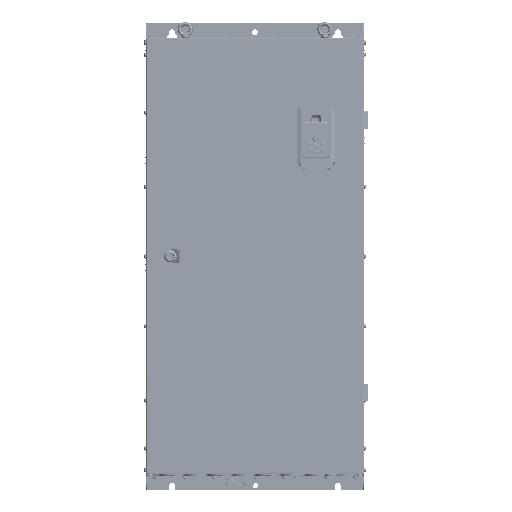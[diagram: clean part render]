
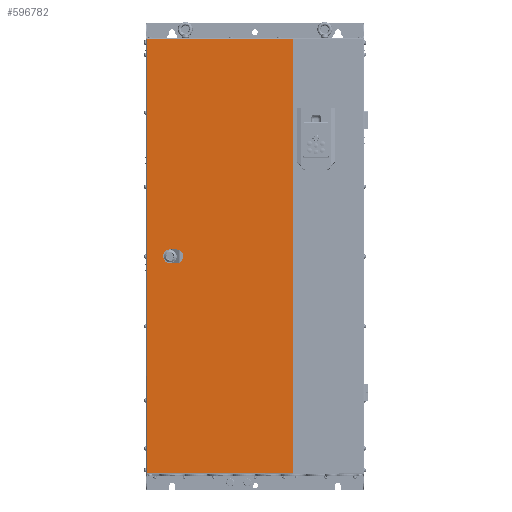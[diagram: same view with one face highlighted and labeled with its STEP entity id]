
A CAD part, top view. The second image highlights one B-rep face of the part: STEP entity #596782.
In plain terms, the highlighted planar face has unit normal (0, 0, 1).
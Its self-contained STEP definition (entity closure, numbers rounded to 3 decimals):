
#594793=DIRECTION('',(0.,-1.,0.));
#594794=VECTOR('',#594793,995.05);
#594795=CARTESIAN_POINT('',(-247.25,997.75,10.5));
#594796=LINE('',#594795,#594794);
#595163=DIRECTION('',(1.,0.,0.));
#595164=VECTOR('',#595163,334.25);
#595165=CARTESIAN_POINT('',(-247.25,2.7,10.5));
#595166=LINE('',#595165,#595164);
#595224=DIRECTION('',(1.,0.,0.));
#595225=VECTOR('',#595224,12.052);
#595226=CARTESIAN_POINT('',(-200.526,509.5,10.5));
#595227=LINE('',#595226,#595225);
#595231=CARTESIAN_POINT('',(-194.5,500.,10.5));
#595232=DIRECTION('',(0.,0.,1.));
#595233=DIRECTION('',(-0.536,0.844,0.));
#595234=AXIS2_PLACEMENT_3D('',#595231,#595232,#595233);
#595239=DIRECTION('',(0.,1.,0.));
#595240=VECTOR('',#595239,12.052);
#595241=CARTESIAN_POINT('',(-204.,493.974,10.5));
#595242=LINE('',#595241,#595240);
#595246=CARTESIAN_POINT('',(-194.5,500.,10.5));
#595247=DIRECTION('',(0.,0.,1.));
#595248=DIRECTION('',(-0.844,-0.536,0.));
#595249=AXIS2_PLACEMENT_3D('',#595246,#595247,#595248);
#595254=DIRECTION('',(-1.,0.,0.));
#595255=VECTOR('',#595254,12.052);
#595256=CARTESIAN_POINT('',(-188.474,490.5,10.5));
#595257=LINE('',#595256,#595255);
#595261=CARTESIAN_POINT('',(-194.5,500.,10.5));
#595262=DIRECTION('',(0.,0.,1.));
#595263=DIRECTION('',(0.536,-0.844,0.));
#595264=AXIS2_PLACEMENT_3D('',#595261,#595262,#595263);
#595269=DIRECTION('',(0.,-1.,0.));
#595270=VECTOR('',#595269,12.052);
#595271=CARTESIAN_POINT('',(-185.,506.026,10.5));
#595272=LINE('',#595271,#595270);
#595276=CARTESIAN_POINT('',(-194.5,500.,10.5));
#595277=DIRECTION('',(0.,0.,1.));
#595278=DIRECTION('',(0.844,0.536,0.));
#595279=AXIS2_PLACEMENT_3D('',#595276,#595277,#595278);
#595284=DIRECTION('',(0.,-1.,0.));
#595285=VECTOR('',#595284,995.05);
#595286=CARTESIAN_POINT('',(87.,997.75,10.5));
#595287=LINE('',#595286,#595285);
#595369=DIRECTION('',(1.,0.,0.));
#595370=VECTOR('',#595369,334.25);
#595371=CARTESIAN_POINT('',(-247.25,997.75,10.5));
#595372=LINE('',#595371,#595370);
#596117=CARTESIAN_POINT('',(-247.25,997.75,10.5));
#596118=CARTESIAN_POINT('',(-247.25,2.7,10.5));
#596119=VERTEX_POINT('',#596117);
#596120=VERTEX_POINT('',#596118);
#596230=CARTESIAN_POINT('',(-200.526,509.5,10.5));
#596231=CARTESIAN_POINT('',(-188.474,509.5,10.5));
#596232=VERTEX_POINT('',#596230);
#596233=VERTEX_POINT('',#596231);
#596234=CARTESIAN_POINT('',(-185.,506.026,10.5));
#596235=VERTEX_POINT('',#596234);
#596236=CARTESIAN_POINT('',(-185.,493.974,10.5));
#596237=VERTEX_POINT('',#596236);
#596238=CARTESIAN_POINT('',(-188.474,490.5,10.5));
#596239=VERTEX_POINT('',#596238);
#596240=CARTESIAN_POINT('',(-200.526,490.5,10.5));
#596241=VERTEX_POINT('',#596240);
#596242=CARTESIAN_POINT('',(-204.,493.974,10.5));
#596243=VERTEX_POINT('',#596242);
#596244=CARTESIAN_POINT('',(-204.,506.026,10.5));
#596245=VERTEX_POINT('',#596244);
#596262=CARTESIAN_POINT('',(87.,997.75,10.5));
#596263=CARTESIAN_POINT('',(87.,2.7,10.5));
#596264=VERTEX_POINT('',#596262);
#596265=VERTEX_POINT('',#596263);
#596752=CARTESIAN_POINT('',(-249.5,1000.,10.5));
#596753=DIRECTION('',(0.,0.,1.));
#596754=DIRECTION('',(0.,-1.,0.));
#596755=AXIS2_PLACEMENT_3D('',#596752,#596753,#596754);
#596756=PLANE('',#596755);
#596757=ORIENTED_EDGE('',*,*,#596743,.T.);
#596758=ORIENTED_EDGE('',*,*,#596682,.F.);
#596759=ORIENTED_EDGE('',*,*,#596434,.F.);
#596761=ORIENTED_EDGE('',*,*,#596760,.T.);
#596762=EDGE_LOOP('',(#596757,#596758,#596759,#596761));
#596763=FACE_OUTER_BOUND('',#596762,.F.);
#596765=ORIENTED_EDGE('',*,*,#596764,.F.);
#596767=ORIENTED_EDGE('',*,*,#596766,.T.);
#596769=ORIENTED_EDGE('',*,*,#596768,.F.);
#596771=ORIENTED_EDGE('',*,*,#596770,.T.);
#596773=ORIENTED_EDGE('',*,*,#596772,.F.);
#596775=ORIENTED_EDGE('',*,*,#596774,.T.);
#596777=ORIENTED_EDGE('',*,*,#596776,.F.);
#596779=ORIENTED_EDGE('',*,*,#596778,.T.);
#596780=EDGE_LOOP('',(#596765,#596767,#596769,#596771,#596773,#596775,#596777,
#596779));
#596781=FACE_BOUND('',#596780,.F.);
#596782=ADVANCED_FACE('',(#596763,#596781),#596756,.T.);
#595235=CIRCLE('',#595234,11.25);
#595250=CIRCLE('',#595249,11.25);
#595265=CIRCLE('',#595264,11.25);
#595280=CIRCLE('',#595279,11.25);
#596434=EDGE_CURVE('',#596119,#596120,#594796,.T.);
#596682=EDGE_CURVE('',#596120,#596265,#595166,.T.);
#596743=EDGE_CURVE('',#596264,#596265,#595287,.T.);
#596760=EDGE_CURVE('',#596119,#596264,#595372,.T.);
#596764=EDGE_CURVE('',#596232,#596233,#595227,.T.);
#596766=EDGE_CURVE('',#596232,#596245,#595235,.T.);
#596768=EDGE_CURVE('',#596243,#596245,#595242,.T.);
#596770=EDGE_CURVE('',#596243,#596241,#595250,.T.);
#596772=EDGE_CURVE('',#596239,#596241,#595257,.T.);
#596774=EDGE_CURVE('',#596239,#596237,#595265,.T.);
#596776=EDGE_CURVE('',#596235,#596237,#595272,.T.);
#596778=EDGE_CURVE('',#596235,#596233,#595280,.T.);
